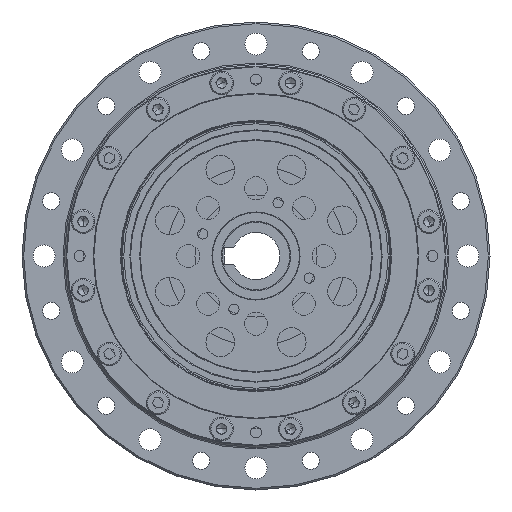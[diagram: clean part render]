
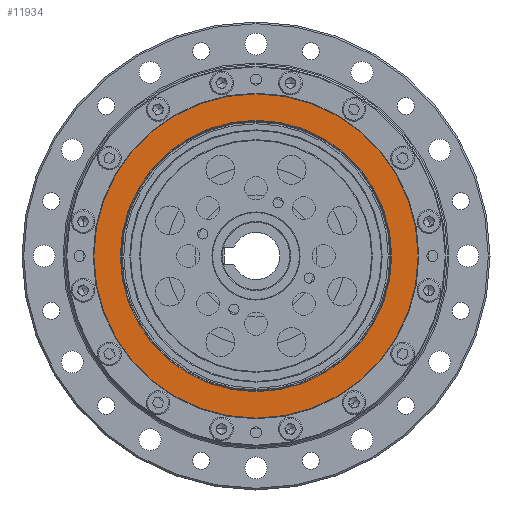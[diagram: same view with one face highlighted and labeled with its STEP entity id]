
A CAD part, left-side view. The second image highlights one B-rep face of the part: STEP entity #11934.
In plain terms, the highlighted planar face has unit normal (-1, 0, 0).
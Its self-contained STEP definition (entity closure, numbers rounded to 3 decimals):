
#38 = EDGE_CURVE ( 'NONE', #5778, #10818, #5468, .T. ) ;
#136 = ORIENTED_EDGE ( 'NONE', *, *, #38, .T. ) ;
#223 = DIRECTION ( 'NONE',  ( -1., 0., 0. ) ) ;
#606 = CARTESIAN_POINT ( 'NONE',  ( -40.141, -1.711, 138. ) ) ;
#683 = DIRECTION ( 'NONE',  ( -1., 0., 0. ) ) ;
#806 = DIRECTION ( 'NONE',  ( 0., 0., 1. ) ) ;
#1016 = ORIENTED_EDGE ( 'NONE', *, *, #2435, .F. ) ;
#1059 = FACE_OUTER_BOUND ( 'NONE', #15510, .T. ) ;
#1657 = CARTESIAN_POINT ( 'NONE',  ( -40.141, -1.711, 98. ) ) ;
#1786 = AXIS2_PLACEMENT_3D ( 'NONE', #15352, #3281, #14751 ) ;
#2435 = EDGE_CURVE ( 'NONE', #11906, #16618, #5413, .T. ) ;
#2703 = CARTESIAN_POINT ( 'NONE',  ( -40.141, -1.711, 185.8 ) ) ;
#3281 = DIRECTION ( 'NONE',  ( -1., 0., 0. ) ) ;
#4565 = FACE_BOUND ( 'NONE', #4725, .T. ) ;
#4725 = EDGE_LOOP ( 'NONE', ( #1016, #12062 ) ) ;
#5071 = CIRCLE ( 'NONE', #6466, 40. ) ;
#5088 = ORIENTED_EDGE ( 'NONE', *, *, #9728, .T. ) ;
#5286 = DIRECTION ( 'NONE',  ( 0., 0., 1. ) ) ;
#5413 = CIRCLE ( 'NONE', #14227, 40. ) ;
#5468 = CIRCLE ( 'NONE', #1786, 47.8 ) ;
#5778 = VERTEX_POINT ( 'NONE', #11577 ) ;
#6466 = AXIS2_PLACEMENT_3D ( 'NONE', #606, #683, #806 ) ;
#6742 = EDGE_CURVE ( 'NONE', #16618, #11906, #5071, .T. ) ;
#7495 = CARTESIAN_POINT ( 'NONE',  ( -40.141, -1.711, 178. ) ) ;
#7556 = PLANE ( 'NONE',  #16827 ) ;
#8359 = CARTESIAN_POINT ( 'NONE',  ( -40.141, -1.711, 138. ) ) ;
#8672 = CARTESIAN_POINT ( 'NONE',  ( -40.141, -1.711, 138. ) ) ;
#9052 = DIRECTION ( 'NONE',  ( 0., 0., 1. ) ) ;
#9068 = DIRECTION ( 'NONE',  ( -1., 0., 0. ) ) ;
#9728 = EDGE_CURVE ( 'NONE', #10818, #5778, #13912, .T. ) ;
#10818 = VERTEX_POINT ( 'NONE', #2703 ) ;
#11333 = AXIS2_PLACEMENT_3D ( 'NONE', #8672, #9068, #9052 ) ;
#11577 = CARTESIAN_POINT ( 'NONE',  ( -40.141, -1.711, 90.2 ) ) ;
#11906 = VERTEX_POINT ( 'NONE', #7495 ) ;
#11934 = ADVANCED_FACE ( 'NONE', ( #1059, #4565 ), #7556, .T. ) ;
#12062 = ORIENTED_EDGE ( 'NONE', *, *, #6742, .F. ) ;
#12931 = DIRECTION ( 'NONE',  ( -1., 0., 0. ) ) ;
#13912 = CIRCLE ( 'NONE', #11333, 47.8 ) ;
#14227 = AXIS2_PLACEMENT_3D ( 'NONE', #8359, #223, #5286 ) ;
#14261 = CARTESIAN_POINT ( 'NONE',  ( -40.141, -1.711, 138. ) ) ;
#14751 = DIRECTION ( 'NONE',  ( 0., 0., 1. ) ) ;
#15352 = CARTESIAN_POINT ( 'NONE',  ( -40.141, -1.711, 138. ) ) ;
#15510 = EDGE_LOOP ( 'NONE', ( #136, #5088 ) ) ;
#16618 = VERTEX_POINT ( 'NONE', #1657 ) ;
#16827 = AXIS2_PLACEMENT_3D ( 'NONE', #14261, #12931, #16908 ) ;
#16908 = DIRECTION ( 'NONE',  ( 0., 0., 1. ) ) ;
